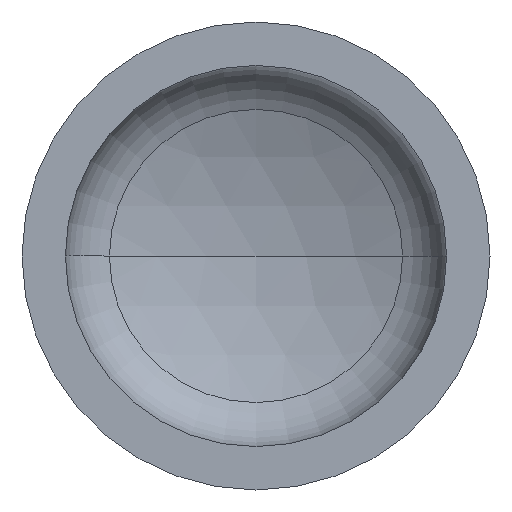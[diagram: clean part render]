
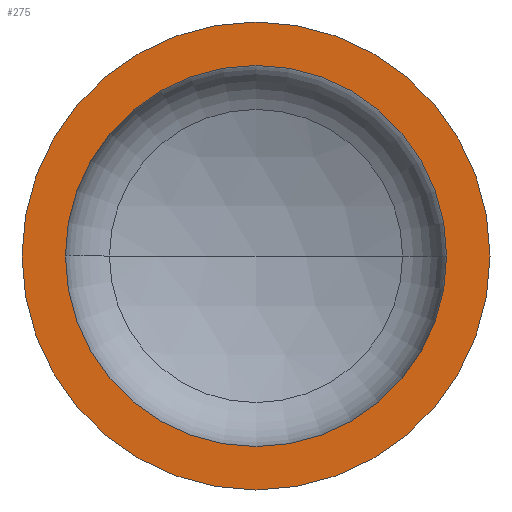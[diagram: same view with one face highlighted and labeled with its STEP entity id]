
A CAD part, front view. The second image highlights one B-rep face of the part: STEP entity #275.
In plain terms, the highlighted planar face has unit normal (0, -1, 0).
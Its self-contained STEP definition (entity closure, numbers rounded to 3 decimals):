
#1 = FACE_OUTER_BOUND ( 'NONE', #184, .T. ) ;
#4 = AXIS2_PLACEMENT_3D ( 'NONE', #63, #64, #138 ) ;
#31 = CARTESIAN_POINT ( 'NONE',  ( -550., 0., 0. ) ) ;
#40 = EDGE_CURVE ( 'NONE', #256, #44, #71, .T. ) ;
#44 = VERTEX_POINT ( 'NONE', #198 ) ;
#51 = PLANE ( 'NONE',  #376 ) ;
#63 = CARTESIAN_POINT ( 'NONE',  ( 0., 0., 0. ) ) ;
#64 = DIRECTION ( 'NONE',  ( 0., -1., 0. ) ) ;
#71 = CIRCLE ( 'NONE', #307, 448. ) ;
#85 = EDGE_CURVE ( 'NONE', #44, #256, #141, .T. ) ;
#86 = CARTESIAN_POINT ( 'NONE',  ( -550., 0., 0. ) ) ;
#101 = CARTESIAN_POINT ( 'NONE',  ( 448., 0., 0. ) ) ;
#127 = DIRECTION ( 'NONE',  ( 0., 1., 0. ) ) ;
#138 = DIRECTION ( 'NONE',  ( 1., 0., 0. ) ) ;
#141 = CIRCLE ( 'NONE', #401, 448. ) ;
#162 = CARTESIAN_POINT ( 'NONE',  ( 0., 0., 0. ) ) ;
#174 = ORIENTED_EDGE ( 'NONE', *, *, #85, .F. ) ;
#179 = FACE_BOUND ( 'NONE', #385, .T. ) ;
#184 = EDGE_LOOP ( 'NONE', ( #283, #237 ) ) ;
#198 = CARTESIAN_POINT ( 'NONE',  ( -448., 0., 0. ) ) ;
#201 = VERTEX_POINT ( 'NONE', #31 ) ;
#202 = CARTESIAN_POINT ( 'NONE',  ( 550., 0., 0. ) ) ;
#237 = ORIENTED_EDGE ( 'NONE', *, *, #343, .T. ) ;
#244 = VERTEX_POINT ( 'NONE', #202 ) ;
#250 = CIRCLE ( 'NONE', #4, 550. ) ;
#256 = VERTEX_POINT ( 'NONE', #101 ) ;
#275 = ADVANCED_FACE ( 'NONE', ( #179, #1 ), #51, .F. ) ;
#276 = DIRECTION ( 'NONE',  ( 1., 0., 0. ) ) ;
#279 = DIRECTION ( 'NONE',  ( 0., -1., 0. ) ) ;
#281 = EDGE_CURVE ( 'NONE', #244, #201, #341, .T. ) ;
#283 = ORIENTED_EDGE ( 'NONE', *, *, #281, .T. ) ;
#303 = DIRECTION ( 'NONE',  ( 1., 0., 0. ) ) ;
#305 = DIRECTION ( 'NONE',  ( 0., -1., 0. ) ) ;
#307 = AXIS2_PLACEMENT_3D ( 'NONE', #310, #305, #303 ) ;
#310 = CARTESIAN_POINT ( 'NONE',  ( 0., 0., 0. ) ) ;
#327 = DIRECTION ( 'NONE',  ( 0., -1., 0. ) ) ;
#331 = DIRECTION ( 'NONE',  ( 1., 0., 0. ) ) ;
#341 = CIRCLE ( 'NONE', #360, 550. ) ;
#343 = EDGE_CURVE ( 'NONE', #201, #244, #250, .T. ) ;
#355 = DIRECTION ( 'NONE',  ( -1., 0., 0. ) ) ;
#360 = AXIS2_PLACEMENT_3D ( 'NONE', #162, #327, #331 ) ;
#372 = ORIENTED_EDGE ( 'NONE', *, *, #40, .F. ) ;
#376 = AXIS2_PLACEMENT_3D ( 'NONE', #86, #127, #355 ) ;
#378 = CARTESIAN_POINT ( 'NONE',  ( 0., 0., 0. ) ) ;
#385 = EDGE_LOOP ( 'NONE', ( #372, #174 ) ) ;
#401 = AXIS2_PLACEMENT_3D ( 'NONE', #378, #279, #276 ) ;
